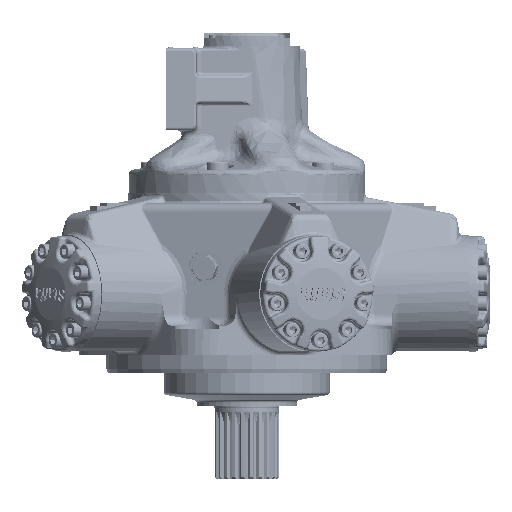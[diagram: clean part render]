
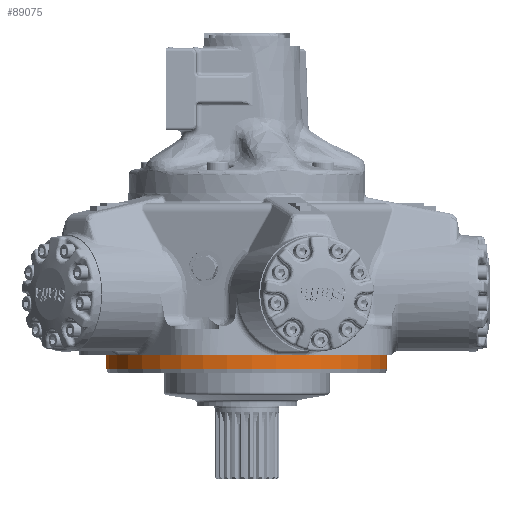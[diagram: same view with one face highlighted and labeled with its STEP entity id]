
A CAD part, left-side view. The second image highlights one B-rep face of the part: STEP entity #89075.
In plain terms, the highlighted cylindrical face has radius 150.768 mm (diameter 301.535 mm), a full revolution.
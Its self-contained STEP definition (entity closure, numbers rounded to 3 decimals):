
#10130=CYLINDRICAL_SURFACE('',#96291,150.768);
#15032=FACE_OUTER_BOUND('',#20598,.T.);
#20598=EDGE_LOOP('',(#75752,#75753,#75754,#75755,#75756));
#25038=LINE('',#210943,#29187);
#29187=VECTOR('',#114216,150.768);
#32576=CIRCLE('',#96086,150.768);
#32659=CIRCLE('',#96292,150.768);
#32660=CIRCLE('',#96293,150.768);
#39431=VERTEX_POINT('',#207470);
#39897=VERTEX_POINT('',#210942);
#39898=VERTEX_POINT('',#210944);
#51286=EDGE_CURVE('',#39431,#39431,#32576,.T.);
#51977=EDGE_CURVE('',#39431,#39897,#25038,.T.);
#51978=EDGE_CURVE('',#39898,#39897,#32659,.T.);
#51979=EDGE_CURVE('',#39897,#39898,#32660,.T.);
#75752=ORIENTED_EDGE('',*,*,#51286,.F.);
#75753=ORIENTED_EDGE('',*,*,#51977,.T.);
#75754=ORIENTED_EDGE('',*,*,#51978,.F.);
#75755=ORIENTED_EDGE('',*,*,#51979,.F.);
#75756=ORIENTED_EDGE('',*,*,#51977,.F.);
#89075=ADVANCED_FACE('',(#15032),#10130,.T.);
#96086=AXIS2_PLACEMENT_3D('',#207471,#113519,#113520);
#96291=AXIS2_PLACEMENT_3D('',#210941,#114214,#114215);
#96292=AXIS2_PLACEMENT_3D('',#210945,#114217,#114218);
#96293=AXIS2_PLACEMENT_3D('',#210946,#114219,#114220);
#113519=DIRECTION('center_axis',(0.,0.,1.));
#113520=DIRECTION('ref_axis',(0.951,-0.309,0.));
#114214=DIRECTION('center_axis',(0.,0.,
-1.));
#114215=DIRECTION('ref_axis',(0.951,-0.309,0.));
#114216=DIRECTION('',(0.,0.,-1.));
#114217=DIRECTION('center_axis',(0.,0.,
-1.));
#114218=DIRECTION('ref_axis',(-0.951,0.309,0.));
#114219=DIRECTION('center_axis',(0.,0.,
-1.));
#114220=DIRECTION('ref_axis',(-0.951,0.309,0.));
#207470=CARTESIAN_POINT('',(-143.388,46.59,-66.027));
#207471=CARTESIAN_POINT('Origin',(0.,0.,
-66.028));
#210941=CARTESIAN_POINT('Origin',(0.,0.,
-75.552));
#210942=CARTESIAN_POINT('',(-143.388,46.59,-80.315));
#210943=CARTESIAN_POINT('',(-143.388,46.59,-75.552));
#210944=CARTESIAN_POINT('',(143.388,-46.59,-80.315));
#210945=CARTESIAN_POINT('Origin',(0.,0.,
-80.315));
#210946=CARTESIAN_POINT('Origin',(0.,0.,
-80.315));
